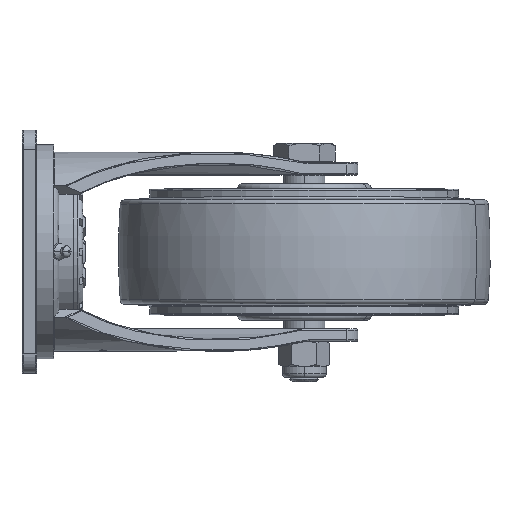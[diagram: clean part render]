
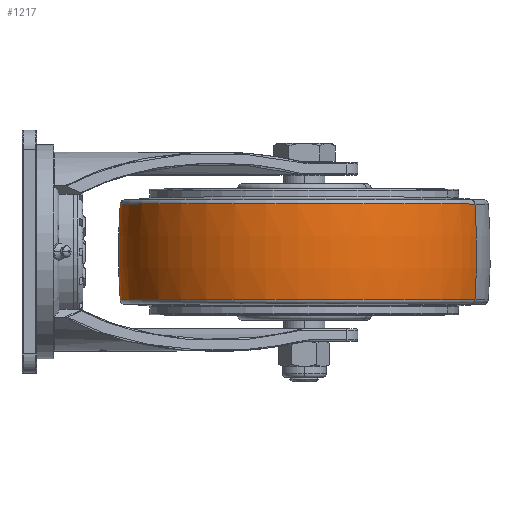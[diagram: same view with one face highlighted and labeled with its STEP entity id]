
A CAD part, left-side view. The second image highlights one B-rep face of the part: STEP entity #1217.
In plain terms, the highlighted toroidal (fillet/blend) face has major radius 174.955 mm and minor radius 251.415 mm.
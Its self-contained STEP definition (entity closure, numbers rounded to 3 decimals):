
#1217 = ADVANCED_FACE ( 'NONE', ( #18580 ), #39533, .T. ) ;
#1377 = CIRCLE ( 'NONE', #8211, 251.415 ) ;
#1691 = CARTESIAN_POINT ( 'NONE',  ( 75.691, 0., 19.659 ) ) ;
#1772 = AXIS2_PLACEMENT_3D ( 'NONE', #15439, #3087, #26188 ) ;
#3087 = DIRECTION ( 'NONE',  ( 0., 0., 1. ) ) ;
#3378 = CARTESIAN_POINT ( 'NONE',  ( 75.691, 0., -19.659 ) ) ;
#3427 = DIRECTION ( 'NONE',  ( 0., 0., 1. ) ) ;
#4991 = EDGE_CURVE ( 'NONE', #36747, #30708, #26172, .T. ) ;
#6730 = VERTEX_POINT ( 'NONE', #1691 ) ;
#8211 = AXIS2_PLACEMENT_3D ( 'NONE', #29105, #38797, #10351 ) ;
#8372 = CARTESIAN_POINT ( 'NONE',  ( 0., 0., 19.659 ) ) ;
#8569 = CARTESIAN_POINT ( 'NONE',  ( -75.691, 0., -19.659 ) ) ;
#8869 = EDGE_LOOP ( 'NONE', ( #38792, #36268, #36442, #34693 ) ) ;
#9091 = EDGE_CURVE ( 'NONE', #12619, #6730, #1377, .T. ) ;
#10351 = DIRECTION ( 'NONE',  ( 0., 0., -1. ) ) ;
#12619 = VERTEX_POINT ( 'NONE', #3378 ) ;
#13447 = AXIS2_PLACEMENT_3D ( 'NONE', #20030, #17183, #26817 ) ;
#15439 = CARTESIAN_POINT ( 'NONE',  ( 0., 0., 0. ) ) ;
#17183 = DIRECTION ( 'NONE',  ( 0., 0., 1. ) ) ;
#18580 = FACE_OUTER_BOUND ( 'NONE', #8869, .T. ) ;
#20030 = CARTESIAN_POINT ( 'NONE',  ( 0., 0., -19.659 ) ) ;
#20059 = EDGE_CURVE ( 'NONE', #36747, #12619, #32516, .T. ) ;
#20885 = CARTESIAN_POINT ( 'NONE',  ( -75.691, 0., 19.659 ) ) ;
#21687 = AXIS2_PLACEMENT_3D ( 'NONE', #37072, #27775, #30651 ) ;
#26172 = CIRCLE ( 'NONE', #21687, 251.415 ) ;
#26188 = DIRECTION ( 'NONE',  ( 1., 0., 0. ) ) ;
#26644 = CIRCLE ( 'NONE', #30712, 75.691 ) ;
#26817 = DIRECTION ( 'NONE',  ( 1., 0., 0. ) ) ;
#27775 = DIRECTION ( 'NONE',  ( 0., 1., 0. ) ) ;
#29105 = CARTESIAN_POINT ( 'NONE',  ( -174.955, 0., 0. ) ) ;
#29840 = EDGE_CURVE ( 'NONE', #30708, #6730, #26644, .T. ) ;
#30651 = DIRECTION ( 'NONE',  ( -1., 0., 0. ) ) ;
#30708 = VERTEX_POINT ( 'NONE', #20885 ) ;
#30712 = AXIS2_PLACEMENT_3D ( 'NONE', #8372, #3427, #35528 ) ;
#32516 = CIRCLE ( 'NONE', #13447, 75.691 ) ;
#34693 = ORIENTED_EDGE ( 'NONE', *, *, #29840, .F. ) ;
#35528 = DIRECTION ( 'NONE',  ( 1., 0., 0. ) ) ;
#36268 = ORIENTED_EDGE ( 'NONE', *, *, #20059, .T. ) ;
#36442 = ORIENTED_EDGE ( 'NONE', *, *, #9091, .T. ) ;
#36747 = VERTEX_POINT ( 'NONE', #8569 ) ;
#37072 = CARTESIAN_POINT ( 'NONE',  ( 174.955, 0., 0. ) ) ;
#38792 = ORIENTED_EDGE ( 'NONE', *, *, #4991, .F. ) ;
#38797 = DIRECTION ( 'NONE',  ( 0., -1., 0. ) ) ;
#39533 = TOROIDAL_SURFACE ( 'NONE', #1772, -174.955, 251.415 ) ;
